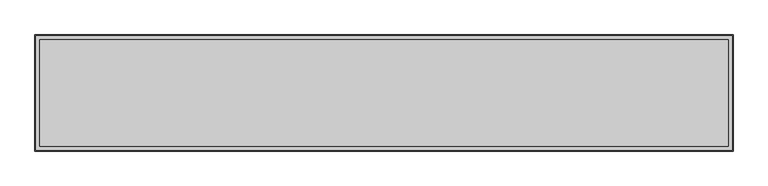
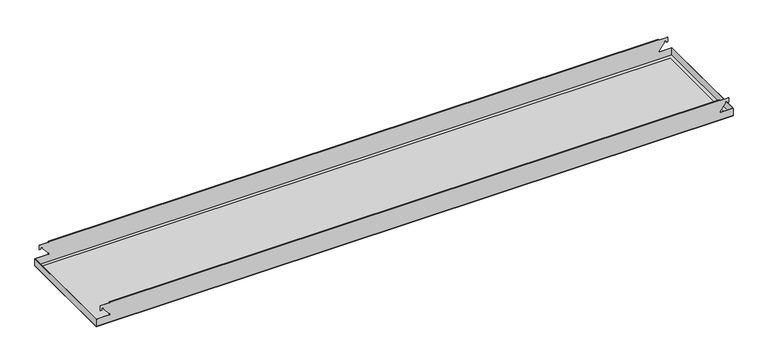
"""IFC4 building model written with IfcOpenShell, lengths in millimetres: proxy geometry, durlum_S10H_panel : durlum_S10H_panel_wall_width_cut."""

from ifc_helpers import new_model, si_unit, frame, origin, origin_with_axes, place, context, project, spatial, polyline, outline, extrude, faceted_brep, source, transform, mapped, element, save


def generic_models_0bd2aacc(model_context):
    return source(origin(), model_context, "Body", "SolidModel", [
        faceted_brep([(574.2747768, -99.75, 40.0), (574.2747768, -99.15, 40.0), (-574.2747768, -99.15, 40.0), (-574.2747768, -99.75, 40.0), (574.2747768, 99.15, 40.0), (574.2747768, 99.75, 40.0), (-574.2747768, 99.75, 40.0), (-574.2747768, 99.15, 40.0), (599.75, 99.75, 0.6), (599.75, -99.75, 0.6), (-599.75, -99.75, 0.6), (-599.75, 99.75, 0.6), (599.15, 99.15, 0.6), (-599.15, 99.15, 0.6), (-599.15, -99.15, 0.6), (599.15, -99.15, 0.6), (-599.75, 99.75, 14.6527788), (-574.2747768, 99.75, 14.6527788), (-574.2747768, 99.75, 16.6023513), (-585.3561673, 99.75, 29.8086382), (-585.3561673, 99.75, 32.5809806), (-588.8907761, 99.75, 32.5809806), (-588.8907761, 99.75, 29.4726287), (-591.75, 99.75, 29.4726287), (-591.75, 99.75, 38.4781412), (-574.2747768, 99.75, 38.4781412), (574.2747768, 99.75, 38.4781412), (591.75, 99.75, 38.4781412), (591.75, 99.75, 29.4726287), (588.8907761, 99.75, 29.4726287), (588.8907761, 99.75, 32.5809806), (585.3561673, 99.75, 32.5809806), (585.3561673, 99.75, 29.8086382), (574.2747768, 99.75, 16.6023513), (574.2747768, 99.75, 14.6527788), (599.75, 99.75, 14.6527788), (-599.75, -99.75, 14.6527788), (599.75, -99.75, 14.6527788), (574.2747768, -99.75, 14.6527788), (574.2747768, -99.75, 16.6023513), (585.3561673, -99.75, 29.8086382), (585.3561673, -99.75, 32.5809806), (588.8907761, -99.75, 32.5809806), (588.8907761, -99.75, 29.4726287), (591.75, -99.75, 29.4726287), (591.75, -99.75, 38.4781412), (574.2747768, -99.75, 38.4781412), (-574.2747768, -99.75, 38.4781412), (-591.75, -99.75, 38.4781412), (-591.75, -99.75, 29.4726287), (-588.8907761, -99.75, 29.4726287), (-588.8907761, -99.75, 32.5809806), (-585.3561673, -99.75, 32.5809806), (-585.3561673, -99.75, 29.8086382), (-574.2747768, -99.75, 16.6023513), (-574.2747768, -99.75, 14.6527788), (599.15, -99.15, 14.6527788), (599.15, 99.15, 14.6527788), (-599.15, -99.15, 14.6527788), (-574.2747768, -99.15, 14.6527788), (-574.2747768, -99.15, 16.6023513), (-585.3561673, -99.15, 29.8086382), (-585.3561673, -99.15, 32.5809806), (-588.8907761, -99.15, 32.5809806), (-588.8907761, -99.15, 29.4726287), (-591.75, -99.15, 29.4726287), (-591.75, -99.15, 38.4781412), (-574.2747768, -99.15, 38.4781412), (574.2747768, -99.15, 38.4781412), (591.75, -99.15, 38.4781412), (591.75, -99.15, 29.4726287), (588.8907761, -99.15, 29.4726287), (588.8907761, -99.15, 32.5809806), (585.3561673, -99.15, 32.5809806), (585.3561673, -99.15, 29.8086382), (574.2747768, -99.15, 16.6023513), (574.2747768, -99.15, 14.6527788), (-599.15, 99.15, 14.6527788), (574.2747768, 99.15, 14.6527788), (574.2747768, 99.15, 16.6023513), (585.3561673, 99.15, 29.8086382), (585.3561673, 99.15, 32.5809806), (588.8907761, 99.15, 32.5809806), (588.8907761, 99.15, 29.4726287), (591.75, 99.15, 29.4726287), (591.75, 99.15, 38.4781412), (574.2747768, 99.15, 38.4781412), (-574.2747768, 99.15, 38.4781412), (-591.75, 99.15, 38.4781412), (-591.75, 99.15, 29.4726287), (-588.8907761, 99.15, 29.4726287), (-588.8907761, 99.15, 32.5809806), (-585.3561673, 99.15, 32.5809806), (-585.3561673, 99.15, 29.8086382), (-574.2747768, 99.15, 16.6023513), (-574.2747768, 99.15, 14.6527788)], [[[0, 1, 2, 3]], [[4, 5, 6, 7]], [[8, 9, 10, 11], [12, 13, 14, 15]], [[8, 11, 16, 17, 18, 19, 20, 21, 22, 23, 24, 25, 6, 5, 26, 27, 28, 29, 30, 31, 32, 33, 34, 35]], [[11, 10, 36, 16]], [[10, 9, 37, 38, 39, 40, 41, 42, 43, 44, 45, 46, 0, 3, 47, 48, 49, 50, 51, 52, 53, 54, 55, 36]], [[9, 8, 35, 37]], [[12, 15, 56, 57]], [[15, 14, 58, 59, 60, 61, 62, 63, 64, 65, 66, 67, 2, 1, 68, 69, 70, 71, 72, 73, 74, 75, 76, 56]], [[14, 13, 77, 58]], [[13, 12, 57, 78, 79, 80, 81, 82, 83, 84, 85, 86, 4, 7, 87, 88, 89, 90, 91, 92, 93, 94, 95, 77]], [[68, 46, 45, 69]], [[26, 86, 85, 27]], [[69, 45, 44, 70]], [[27, 85, 84, 28]], [[70, 44, 43, 71]], [[28, 84, 83, 29]], [[71, 43, 42, 72]], [[29, 83, 82, 30]], [[72, 42, 41, 73]], [[30, 82, 81, 31]], [[73, 41, 40, 74]], [[31, 81, 80, 32]], [[74, 40, 39, 75]], [[32, 80, 79, 33]], [[75, 39, 38, 76]], [[33, 79, 78, 34]], [[76, 38, 37, 35, 34, 78, 57, 56]], [[46, 68, 1, 0]], [[86, 26, 5, 4]], [[66, 48, 47, 67]], [[24, 88, 87, 25]], [[48, 66, 65, 49]], [[88, 24, 23, 89]], [[49, 65, 64, 50]], [[89, 23, 22, 90]], [[50, 64, 63, 51]], [[90, 22, 21, 91]], [[51, 63, 62, 52]], [[91, 21, 20, 92]], [[52, 62, 61, 53]], [[92, 20, 19, 93]], [[53, 61, 60, 54]], [[93, 19, 18, 94]], [[54, 60, 59, 55]], [[94, 18, 17, 95]], [[55, 59, 58, 77, 95, 17, 16, 36]], [[67, 47, 3, 2]], [[25, 87, 7, 6]]]),
        extrude(outline(polyline([(591.75, 91.75), (591.75, -91.75), (-591.75, -91.75), (-591.75, 91.75), (591.75, 91.75)])), frame((0.0, 0.0, 0.6), z_axis=(0.0, 0.0, 1.0), x_axis=(1.0, 0.0, 0.0)), (0.0, 0.0, 1.0), 0.6),
        extrude(outline(polyline([(599.75, 99.75), (599.75, -99.75), (-599.75, -99.75), (-599.75, 99.75), (599.75, 99.75)]), holes=[polyline([(591.75, 91.75), (-591.75, 91.75), (-591.75, -91.75), (591.75, -91.75), (591.75, 91.75)])]), origin_with_axes(), (0.0, 0.0, 1.0), 0.6),
        extrude(outline(polyline([(591.75, 91.75), (591.75, -91.75), (-591.75, -91.75), (-591.75, 91.75), (591.75, 91.75)])), origin_with_axes(), (0.0, 0.0, 1.0), 0.6),
    ])


if __name__ == "__main__":
    model = new_model("IFC4")
    model_context = context("Model", 3, world=origin())
    ifc_project = project(units=[si_unit("LENGTHUNIT", "METRE", prefix="MILLI")], contexts=[model_context])
    site = spatial("IfcSite", under=ifc_project)
    building = spatial("IfcBuilding", under=site)
    placement = place(None, origin())
    generic_models_shape = generic_models_0bd2aacc(model_context)
    element("IfcBuildingElementProxy", 1, Name="durlum_S10H_panel : durlum_S10H_panel_wall_width_cut", ObjectType="durlum_S10H_panel : durlum_S10H_panel_wall_width_cut", at=placement, inside=building, context=model_context, shape_type="MappedRepresentation", body=[
        mapped(generic_models_shape, transform((0.0, 0.0, 0.0), x_axis=(1.0, 0.0, 0.0), y_axis=(0.0, 1.0, 0.0), z_axis=(0.0, 0.0, 1.0))),
    ])
    save(model, "model.ifc")
